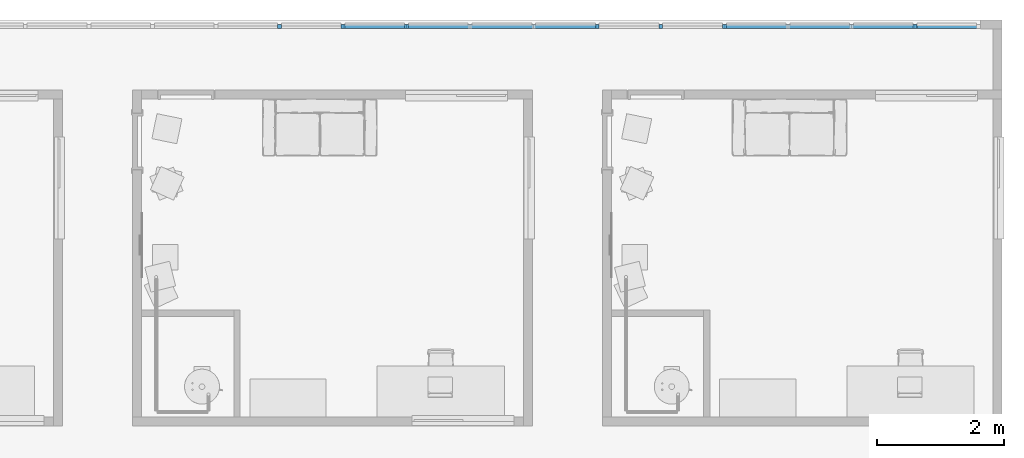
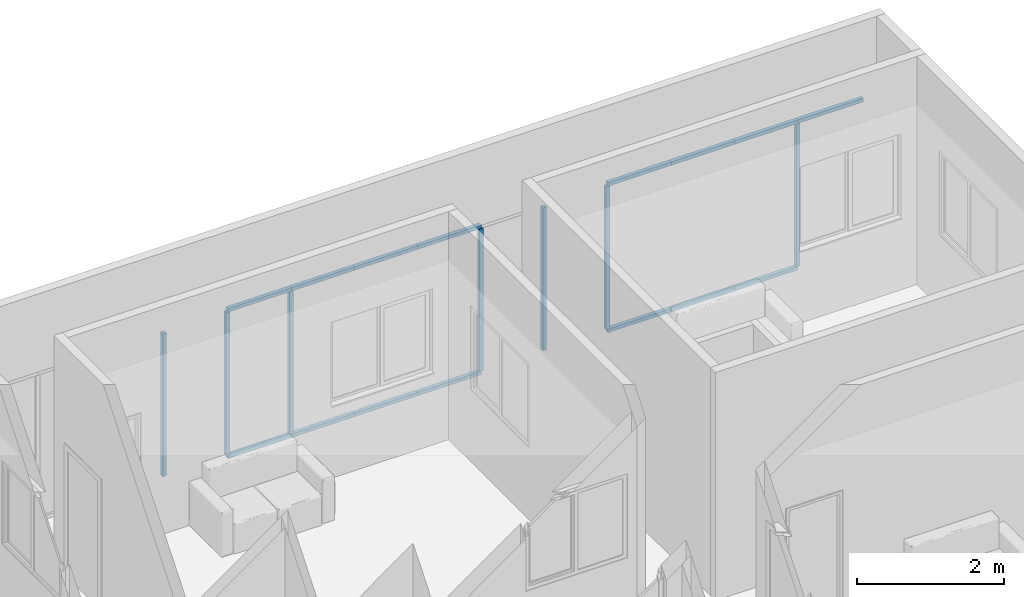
# One storey, part 4 of 72: 22 members, 1 element without a shape of its own.
"""IFC4 building model written with IfcOpenShell, lengths in centimetres."""

from ifc_helpers import new_model, entity, si_unit, converted_unit, derived_unit, direction, frame, origin, place, context, subcontext, project, spatial, indexed_curve, outline, extrude, source, transform, mapped, material, type_object, type_shapes, element, aggregate, save


model = new_model("IFC4")

# Units and contexts
model_context = context("Model", 3, precision=0.001, world=origin(), true_north=direction((6.123233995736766e-17, 1.0)))
body_context = subcontext(model_context, "Body", "Model", "MODEL_VIEW")
ifc_project = project(units=[si_unit("LENGTHUNIT", "METRE", prefix="CENTI"), si_unit("AREAUNIT", "SQUARE_METRE"), si_unit("VOLUMEUNIT", "CUBIC_METRE"), derived_unit("THERMALTRANSMITTANCEUNIT", [(si_unit("MASSUNIT", "GRAM", prefix="KILO"), 1), (si_unit("THERMODYNAMICTEMPERATUREUNIT", "KELVIN"), -1), (si_unit("TIMEUNIT", "SECOND"), -3)]), converted_unit("PLANEANGLEUNIT", "DEGREE", entity("IfcPlaneAngleMeasure", 0.017453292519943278), si_unit("PLANEANGLEUNIT", "RADIAN"), dimensions=[0, 0, 0, 0, 0, 0, 0]), derived_unit("MASSDENSITYUNIT", [(si_unit("MASSUNIT", "GRAM", prefix="KILO"), 1), (si_unit("LENGTHUNIT", "METRE"), -3)]), derived_unit("VAPORPERMEABILITYUNIT", [(si_unit("LENGTHUNIT", "METRE"), -1), (si_unit("TIMEUNIT", "SECOND"), 1)]), derived_unit("USERDEFINED", [(si_unit("MASSUNIT", "GRAM", prefix="KILO"), 1), (si_unit("TIMEUNIT", "SECOND"), -3), (si_unit("LENGTHUNIT", "METRE"), 3), (si_unit("ELECTRICCURRENTUNIT", "AMPERE"), -2)]), derived_unit("SPECIFICHEATCAPACITYUNIT", [(si_unit("THERMODYNAMICTEMPERATUREUNIT", "KELVIN"), -1), (si_unit("LENGTHUNIT", "METRE"), 2), (si_unit("TIMEUNIT", "SECOND"), -2)]), derived_unit("THERMALCONDUCTANCEUNIT", [(si_unit("MASSUNIT", "GRAM", prefix="KILO"), 1), (si_unit("THERMODYNAMICTEMPERATUREUNIT", "KELVIN"), -1), (si_unit("TIMEUNIT", "SECOND"), -3), (si_unit("LENGTHUNIT", "METRE"), 1)]), si_unit("PRESSUREUNIT", "PASCAL"), derived_unit("MODULUSOFELASTICITYUNIT", [(si_unit("MASSUNIT", "GRAM", prefix="KILO"), 1), (si_unit("LENGTHUNIT", "METRE"), -1), (si_unit("TIMEUNIT", "SECOND"), -2)]), derived_unit("THERMALEXPANSIONCOEFFICIENTUNIT", [(si_unit("THERMODYNAMICTEMPERATUREUNIT", "KELVIN"), -1)])], contexts=[model_context])

# Site, building, storey
site_placement = place(None, origin())
site = spatial("IfcSite", under=ifc_project, at=site_placement, Name="Default", CompositionType="ELEMENT")
building_placement = place(site_placement, origin())
building = spatial("IfcBuilding", under=site, at=building_placement, Name="IDS Escape Game Building", CompositionType="ELEMENT")
storey_placement = place(building_placement, frame((0.0, 0.0, 800.0)))
storey = spatial("IfcBuildingStorey", under=building, at=storey_placement, Name="02_Second Floor", CompositionType="ELEMENT", Elevation=800.0)

# Curtain wall, members
curtain_wall_type = type_object("IfcCurtainWallType", Name="Curtain Wall:ARC_31.3_CWA_LIB_bandraam vast 100cm - profiel 60x60_gen_BERSnl", PredefinedType="NOTDEFINED")
curtain_wall_placement = place(storey_placement, frame((0.0, 0.0, -800.0)))
curtain_wall = element("IfcCurtainWall", 1, at=curtain_wall_placement, inside=storey, type_object=curtain_wall_type, Name="Curtain Wall:ARC_31.3_CWA_LIB_bandraam vast 100cm - profiel 60x60_gen_BERSnl", ObjectType="Curtain Wall:ARC_31.3_CWA_LIB_bandraam vast 100cm - profiel 60x60_gen_BERSnl", PredefinedType="NOTDEFINED")
ifc_material = material(Name="<Unnamed>")
member_type_1 = type_object("IfcMemberType", Name="Rectangular Mullion:30-_Stijl_Rechthoek_Midden_B60xD60", PredefinedType="MULLION", material=ifc_material)
shared_shape_1 = source(origin(), body_context, "Body", "SweptSolid", [
    extrude(outline(indexed_curve([(-3.0, -3.0), (3.0, -3.0), (3.0, 3.0), (-3.0, 3.0), (-3.0, -3.0)], self_intersect=False)), frame((-3.0, 3.0, -102.84313728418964), z_axis=(0.0, 0.0, 1.0), x_axis=(-1.0, 0.0, 0.0)), (0.0, 0.0, 1.0), 102.84313728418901),
])
type_shapes(member_type_1, [shared_shape_1])
member_1_placement = place(curtain_wall_placement, frame((5015.0, 3182.0, 1050.0), z_axis=(1.0, 0.0, 0.0), x_axis=(0.0, 0.0, 1.0)))
member_1 = element("IfcMember", 2, at=member_1_placement, type_object=member_type_1, material=ifc_material, Name="Rectangular Mullion:30-_Stijl_Rechthoek_Midden_B60xD60", ObjectType="Rectangular Mullion:30-_Stijl_Rechthoek_Midden_B60xD60", PredefinedType="MULLION", context=body_context, shape_type="MappedRepresentation", body=[
    mapped(shared_shape_1, transform((0.0, 0.0, 0.0), scale=1.0)),
])
member_type_2 = type_object("IfcMemberType", Name="Rectangular Mullion:30-_Stijl_Rechthoek_Midden_B60xD60", PredefinedType="MULLION", material=ifc_material)
shared_shape_2 = source(origin(), body_context, "Body", "SweptSolid", [
    extrude(outline(indexed_curve([(-3.0, -3.0), (3.0, -3.0), (3.0, 3.0), (-3.0, 3.0), (-3.0, -3.0)], self_intersect=False)), frame((-3.0, 3.0, -99.84313725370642), z_axis=(0.0, 0.0, 1.0), x_axis=(-1.0, 0.0, 0.0)), (0.0, 0.0, 1.0), 99.84313725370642),
])
type_shapes(member_type_2, [shared_shape_2])
member_2_placement = place(curtain_wall_placement, frame((4113.411764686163, 3182.0, 1050.0), z_axis=(1.0, 0.0, 0.0), x_axis=(0.0, 0.0, 1.0)))
member_2 = element("IfcMember", 3, at=member_2_placement, type_object=member_type_2, material=ifc_material, Name="Rectangular Mullion:30-_Stijl_Rechthoek_Midden_B60xD60", ObjectType="Rectangular Mullion:30-_Stijl_Rechthoek_Midden_B60xD60", PredefinedType="MULLION", context=body_context, shape_type="MappedRepresentation", body=[
    mapped(shared_shape_2, transform((0.0, 0.0, 0.0), scale=1.0)),
])
member_3_placement = place(curtain_wall_placement, frame((4213.25490193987, 3182.0, 1050.0), z_axis=(1.0, 0.0, 0.0), x_axis=(0.0, 0.0, 1.0)))
member_3 = element("IfcMember", 4, at=member_3_placement, type_object=member_type_2, material=ifc_material, Name="Rectangular Mullion:30-_Stijl_Rechthoek_Midden_B60xD60", ObjectType="Rectangular Mullion:30-_Stijl_Rechthoek_Midden_B60xD60", PredefinedType="MULLION", context=body_context, shape_type="MappedRepresentation", body=[
    mapped(shared_shape_2, transform((0.0, 0.0, 0.0), scale=1.0)),
])
member_4_placement = place(curtain_wall_placement, frame((4313.098039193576, 3182.0, 1050.0), z_axis=(1.0, 0.0, 0.0), x_axis=(0.0, 0.0, 1.0)))
member_4 = element("IfcMember", 5, at=member_4_placement, type_object=member_type_2, material=ifc_material, Name="Rectangular Mullion:30-_Stijl_Rechthoek_Midden_B60xD60", ObjectType="Rectangular Mullion:30-_Stijl_Rechthoek_Midden_B60xD60", PredefinedType="MULLION", context=body_context, shape_type="MappedRepresentation", body=[
    mapped(shared_shape_2, transform((0.0, 0.0, 0.0), scale=1.0)),
])
member_5_placement = place(curtain_wall_placement, frame((4412.941176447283, 3182.0, 1050.0), z_axis=(1.0, 0.0, 0.0), x_axis=(0.0, 0.0, 1.0)))
member_5 = element("IfcMember", 6, at=member_5_placement, type_object=member_type_2, material=ifc_material, Name="Rectangular Mullion:30-_Stijl_Rechthoek_Midden_B60xD60", ObjectType="Rectangular Mullion:30-_Stijl_Rechthoek_Midden_B60xD60", PredefinedType="MULLION", context=body_context, shape_type="MappedRepresentation", body=[
    mapped(shared_shape_2, transform((0.0, 0.0, 0.0), scale=1.0)),
])
member_6_placement = place(curtain_wall_placement, frame((4712.470588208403, 3182.0, 1050.0), z_axis=(1.0, 0.0, 0.0), x_axis=(0.0, 0.0, 1.0)))
member_6 = element("IfcMember", 7, at=member_6_placement, type_object=member_type_2, material=ifc_material, Name="Rectangular Mullion:30-_Stijl_Rechthoek_Midden_B60xD60", ObjectType="Rectangular Mullion:30-_Stijl_Rechthoek_Midden_B60xD60", PredefinedType="MULLION", context=body_context, shape_type="MappedRepresentation", body=[
    mapped(shared_shape_2, transform((0.0, 0.0, 0.0), scale=1.0)),
])
member_7_placement = place(curtain_wall_placement, frame((4812.31372546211, 3182.0, 1050.0), z_axis=(1.0, 0.0, 0.0), x_axis=(0.0, 0.0, 1.0)))
member_7 = element("IfcMember", 8, at=member_7_placement, type_object=member_type_2, material=ifc_material, Name="Rectangular Mullion:30-_Stijl_Rechthoek_Midden_B60xD60", ObjectType="Rectangular Mullion:30-_Stijl_Rechthoek_Midden_B60xD60", PredefinedType="MULLION", context=body_context, shape_type="MappedRepresentation", body=[
    mapped(shared_shape_2, transform((0.0, 0.0, 0.0), scale=1.0)),
])
member_8_placement = place(curtain_wall_placement, frame((4912.156862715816, 3182.0, 1050.0), z_axis=(1.0, 0.0, 0.0), x_axis=(0.0, 0.0, 1.0)))
member_8 = element("IfcMember", 9, at=member_8_placement, type_object=member_type_2, material=ifc_material, Name="Rectangular Mullion:30-_Stijl_Rechthoek_Midden_B60xD60", ObjectType="Rectangular Mullion:30-_Stijl_Rechthoek_Midden_B60xD60", PredefinedType="MULLION", context=body_context, shape_type="MappedRepresentation", body=[
    mapped(shared_shape_2, transform((0.0, 0.0, 0.0), scale=1.0)),
])
member_type_3 = type_object("IfcMemberType", Name="Rectangular Mullion:30-_Stijl_Rechthoek_Midden_B60xD60", PredefinedType="MULLION", material=ifc_material)
shared_shape_3 = source(origin(), body_context, "Body", "SweptSolid", [
    extrude(outline(indexed_curve([(-3.0, -3.0), (3.0, -3.0), (3.0, 3.0), (-3.0, 3.0), (-3.0, -3.0)], self_intersect=False)), frame((-3.0, 3.0, -99.84313725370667), z_axis=(0.0, 0.0, 1.0), x_axis=(-1.0, 0.0, 0.0)), (0.0, 0.0, 1.0), 99.84313725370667),
])
type_shapes(member_type_3, [shared_shape_3])
member_9_placement = place(curtain_wall_placement, frame((4013.568627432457, 3182.0, 800.0), z_axis=(-1.0, 0.0, 0.0), x_axis=(0.0, 0.0, -1.0)))
member_9 = element("IfcMember", 10, at=member_9_placement, type_object=member_type_3, material=ifc_material, Name="Rectangular Mullion:30-_Stijl_Rechthoek_Midden_B60xD60", ObjectType="Rectangular Mullion:30-_Stijl_Rechthoek_Midden_B60xD60", PredefinedType="MULLION", context=body_context, shape_type="MappedRepresentation", body=[
    mapped(shared_shape_3, transform((0.0, 0.0, 0.0), scale=1.0)),
])
member_10_placement = place(curtain_wall_placement, frame((4113.411764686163, 3182.0, 800.0), z_axis=(-1.0, 0.0, 0.0), x_axis=(0.0, 0.0, -1.0)))
member_10 = element("IfcMember", 11, at=member_10_placement, type_object=member_type_3, material=ifc_material, Name="Rectangular Mullion:30-_Stijl_Rechthoek_Midden_B60xD60", ObjectType="Rectangular Mullion:30-_Stijl_Rechthoek_Midden_B60xD60", PredefinedType="MULLION", context=body_context, shape_type="MappedRepresentation", body=[
    mapped(shared_shape_3, transform((0.0, 0.0, 0.0), scale=1.0)),
])
member_11_placement = place(curtain_wall_placement, frame((4213.25490193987, 3182.0, 800.0), z_axis=(-1.0, 0.0, 0.0), x_axis=(0.0, 0.0, -1.0)))
member_11 = element("IfcMember", 12, at=member_11_placement, type_object=member_type_3, material=ifc_material, Name="Rectangular Mullion:30-_Stijl_Rechthoek_Midden_B60xD60", ObjectType="Rectangular Mullion:30-_Stijl_Rechthoek_Midden_B60xD60", PredefinedType="MULLION", context=body_context, shape_type="MappedRepresentation", body=[
    mapped(shared_shape_3, transform((0.0, 0.0, 0.0), scale=1.0)),
])
member_12_placement = place(curtain_wall_placement, frame((4313.098039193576, 3182.0, 800.0), z_axis=(-1.0, 0.0, 0.0), x_axis=(0.0, 0.0, -1.0)))
member_12 = element("IfcMember", 13, at=member_12_placement, type_object=member_type_3, material=ifc_material, Name="Rectangular Mullion:30-_Stijl_Rechthoek_Midden_B60xD60", ObjectType="Rectangular Mullion:30-_Stijl_Rechthoek_Midden_B60xD60", PredefinedType="MULLION", context=body_context, shape_type="MappedRepresentation", body=[
    mapped(shared_shape_3, transform((0.0, 0.0, 0.0), scale=1.0)),
])
member_13_placement = place(curtain_wall_placement, frame((4612.6274509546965, 3182.0, 800.0), z_axis=(-1.0, 0.0, 0.0), x_axis=(0.0, 0.0, -1.0)))
member_13 = element("IfcMember", 14, at=member_13_placement, type_object=member_type_3, material=ifc_material, Name="Rectangular Mullion:30-_Stijl_Rechthoek_Midden_B60xD60", ObjectType="Rectangular Mullion:30-_Stijl_Rechthoek_Midden_B60xD60", PredefinedType="MULLION", context=body_context, shape_type="MappedRepresentation", body=[
    mapped(shared_shape_3, transform((0.0, 0.0, 0.0), scale=1.0)),
])
member_14_placement = place(curtain_wall_placement, frame((4712.470588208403, 3182.0, 800.0), z_axis=(-1.0, 0.0, 0.0), x_axis=(0.0, 0.0, -1.0)))
member_14 = element("IfcMember", 15, at=member_14_placement, type_object=member_type_3, material=ifc_material, Name="Rectangular Mullion:30-_Stijl_Rechthoek_Midden_B60xD60", ObjectType="Rectangular Mullion:30-_Stijl_Rechthoek_Midden_B60xD60", PredefinedType="MULLION", context=body_context, shape_type="MappedRepresentation", body=[
    mapped(shared_shape_3, transform((0.0, 0.0, 0.0), scale=1.0)),
])
member_15_placement = place(curtain_wall_placement, frame((4812.31372546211, 3182.0, 800.0), z_axis=(-1.0, 0.0, 0.0), x_axis=(0.0, 0.0, -1.0)))
member_15 = element("IfcMember", 16, at=member_15_placement, type_object=member_type_3, material=ifc_material, Name="Rectangular Mullion:30-_Stijl_Rechthoek_Midden_B60xD60", ObjectType="Rectangular Mullion:30-_Stijl_Rechthoek_Midden_B60xD60", PredefinedType="MULLION", context=body_context, shape_type="MappedRepresentation", body=[
    mapped(shared_shape_3, transform((0.0, 0.0, 0.0), scale=1.0)),
])
member_type_4 = type_object("IfcMemberType", Name="Rectangular Mullion:30-_Stijl_Rechthoek_Midden_B60xD60", PredefinedType="MULLION", material=ifc_material)
shared_shape_4 = source(origin(), body_context, "Body", "SweptSolid", [
    extrude(outline(indexed_curve([(-3.0, -3.0), (3.0, -3.0), (3.0, 3.0), (-3.0, 3.0), (-3.0, -3.0)], self_intersect=False)), frame((0.0, 3.0, -238.0), z_axis=(0.0, 0.0, 1.0), x_axis=(-1.0, 0.0, 0.0)), (0.0, 0.0, 1.0), 238.00000000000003),
])
type_shapes(member_type_4, [shared_shape_4])
member_16_placement = place(curtain_wall_placement, frame((3913.7254901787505, 3182.0, 806.0), z_axis=(0.0, 0.0, -1.0), x_axis=(1.0, 0.0, 0.0)))
member_16 = element("IfcMember", 17, at=member_16_placement, type_object=member_type_4, material=ifc_material, Name="Rectangular Mullion:30-_Stijl_Rechthoek_Midden_B60xD60", ObjectType="Rectangular Mullion:30-_Stijl_Rechthoek_Midden_B60xD60", PredefinedType="MULLION", context=body_context, shape_type="MappedRepresentation", body=[
    mapped(shared_shape_4, transform((0.0, 0.0, 0.0), scale=1.0)),
])
member_17_placement = place(curtain_wall_placement, frame((4013.568627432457, 3182.0, 806.0), z_axis=(0.0, 0.0, -1.0), x_axis=(1.0, 0.0, 0.0)))
member_17 = element("IfcMember", 18, at=member_17_placement, type_object=member_type_4, material=ifc_material, Name="Rectangular Mullion:30-_Stijl_Rechthoek_Midden_B60xD60", ObjectType="Rectangular Mullion:30-_Stijl_Rechthoek_Midden_B60xD60", PredefinedType="MULLION", context=body_context, shape_type="MappedRepresentation", body=[
    mapped(shared_shape_4, transform((0.0, 0.0, 0.0), scale=1.0)),
])
member_18_placement = place(curtain_wall_placement, frame((4113.411764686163, 3182.0, 806.0), z_axis=(0.0, 0.0, -1.0), x_axis=(1.0, 0.0, 0.0)))
member_18 = element("IfcMember", 19, at=member_18_placement, type_object=member_type_4, material=ifc_material, Name="Rectangular Mullion:30-_Stijl_Rechthoek_Midden_B60xD60", ObjectType="Rectangular Mullion:30-_Stijl_Rechthoek_Midden_B60xD60", PredefinedType="MULLION", context=body_context, shape_type="MappedRepresentation", body=[
    mapped(shared_shape_4, transform((0.0, 0.0, 0.0), scale=1.0)),
])
member_19_placement = place(curtain_wall_placement, frame((4412.941176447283, 3182.0, 806.0), z_axis=(0.0, 0.0, -1.0), x_axis=(1.0, 0.0, 0.0)))
member_19 = element("IfcMember", 20, at=member_19_placement, type_object=member_type_4, material=ifc_material, Name="Rectangular Mullion:30-_Stijl_Rechthoek_Midden_B60xD60", ObjectType="Rectangular Mullion:30-_Stijl_Rechthoek_Midden_B60xD60", PredefinedType="MULLION", context=body_context, shape_type="MappedRepresentation", body=[
    mapped(shared_shape_4, transform((0.0, 0.0, 0.0), scale=1.0)),
])
member_20_placement = place(curtain_wall_placement, frame((4512.7843137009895, 3182.0, 806.0), z_axis=(0.0, 0.0, -1.0), x_axis=(1.0, 0.0, 0.0)))
member_20 = element("IfcMember", 21, at=member_20_placement, type_object=member_type_4, material=ifc_material, Name="Rectangular Mullion:30-_Stijl_Rechthoek_Midden_B60xD60", ObjectType="Rectangular Mullion:30-_Stijl_Rechthoek_Midden_B60xD60", PredefinedType="MULLION", context=body_context, shape_type="MappedRepresentation", body=[
    mapped(shared_shape_4, transform((0.0, 0.0, 0.0), scale=1.0)),
])
member_21_placement = place(curtain_wall_placement, frame((4612.6274509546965, 3182.0, 806.0), z_axis=(0.0, 0.0, -1.0), x_axis=(1.0, 0.0, 0.0)))
member_21 = element("IfcMember", 22, at=member_21_placement, type_object=member_type_4, material=ifc_material, Name="Rectangular Mullion:30-_Stijl_Rechthoek_Midden_B60xD60", ObjectType="Rectangular Mullion:30-_Stijl_Rechthoek_Midden_B60xD60", PredefinedType="MULLION", context=body_context, shape_type="MappedRepresentation", body=[
    mapped(shared_shape_4, transform((0.0, 0.0, 0.0), scale=1.0)),
])
member_22_placement = place(curtain_wall_placement, frame((4912.156862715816, 3182.0, 806.0), z_axis=(0.0, 0.0, -1.0), x_axis=(1.0, 0.0, 0.0)))
member_22 = element("IfcMember", 23, at=member_22_placement, type_object=member_type_4, material=ifc_material, Name="Rectangular Mullion:30-_Stijl_Rechthoek_Midden_B60xD60", ObjectType="Rectangular Mullion:30-_Stijl_Rechthoek_Midden_B60xD60", PredefinedType="MULLION", context=body_context, shape_type="MappedRepresentation", body=[
    mapped(shared_shape_4, transform((0.0, 0.0, 0.0), scale=1.0)),
])
aggregate(curtain_wall, [member_1, member_2, member_3, member_4, member_5, member_6, member_7, member_8, member_9, member_10, member_11, member_12, member_13, member_14, member_15, member_16, member_17, member_18, member_19, member_20, member_21, member_22])

save(model, "model.ifc")
